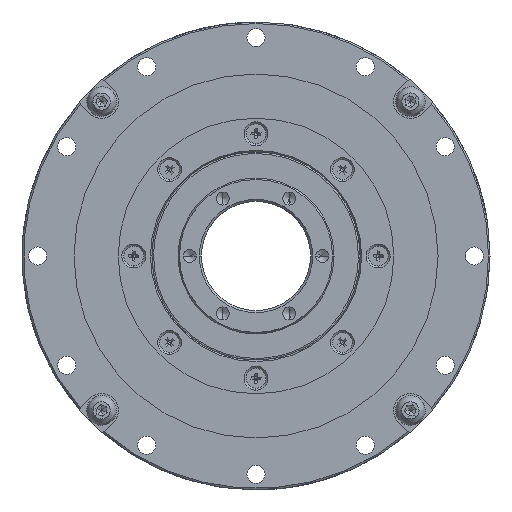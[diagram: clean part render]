
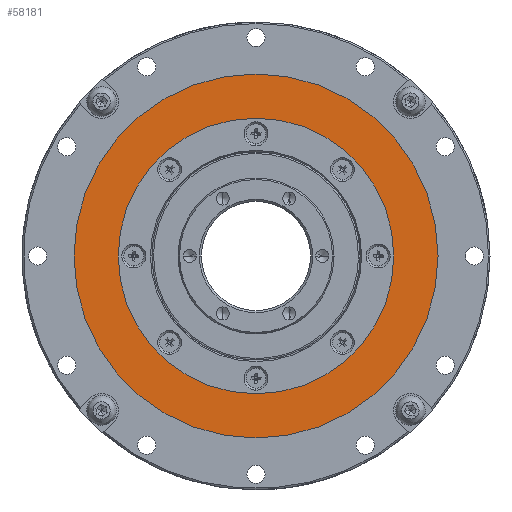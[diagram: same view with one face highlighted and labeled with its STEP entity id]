
A CAD part, left-side view. The second image highlights one B-rep face of the part: STEP entity #58181.
In plain terms, the highlighted planar face has unit normal (-1, 0, 0).
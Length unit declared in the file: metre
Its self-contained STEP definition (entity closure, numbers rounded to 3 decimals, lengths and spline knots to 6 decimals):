
#921 = AXIS2_PLACEMENT_3D ( 'NONE', #72501, #32130, #54411 ) ;
#1647 = DIRECTION ( 'NONE',  ( -1., 0., 0. ) ) ;
#2504 = EDGE_LOOP ( 'NONE', ( #61045, #73732 ) ) ;
#4792 = CARTESIAN_POINT ( 'NONE',  ( 0.002, 0., 0.0265 ) ) ;
#5597 = DIRECTION ( 'NONE',  ( 0., 0., -1. ) ) ;
#6837 = CIRCLE ( 'NONE', #48985, 0.035 ) ;
#7664 = CARTESIAN_POINT ( 'NONE',  ( 0.002, 0., 0. ) ) ;
#7743 = EDGE_CURVE ( 'NONE', #34754, #13283, #69529, .T. ) ;
#8375 = CARTESIAN_POINT ( 'NONE',  ( 0.002, 0., -0.035 ) ) ;
#10057 = EDGE_CURVE ( 'NONE', #13283, #34754, #58888, .T. ) ;
#11230 = CARTESIAN_POINT ( 'NONE',  ( 0.002, 0., 0. ) ) ;
#12117 = DIRECTION ( 'NONE',  ( 1., 0., 0. ) ) ;
#12809 = ORIENTED_EDGE ( 'NONE', *, *, #20571, .F. ) ;
#13028 = ORIENTED_EDGE ( 'NONE', *, *, #18226, .F. ) ;
#13283 = VERTEX_POINT ( 'NONE', #4792 ) ;
#14333 = AXIS2_PLACEMENT_3D ( 'NONE', #7664, #1647, #70651 ) ;
#14772 = FACE_BOUND ( 'NONE', #2504, .T. ) ;
#18226 = EDGE_CURVE ( 'NONE', #61558, #46079, #6837, .T. ) ;
#20571 = EDGE_CURVE ( 'NONE', #46079, #61558, #67284, .T. ) ;
#32130 = DIRECTION ( 'NONE',  ( 1., 0., 0. ) ) ;
#34452 = CARTESIAN_POINT ( 'NONE',  ( 0.002, 0., 0.035 ) ) ;
#34754 = VERTEX_POINT ( 'NONE', #57850 ) ;
#35440 = CARTESIAN_POINT ( 'NONE',  ( 0.002, 0., 0. ) ) ;
#36998 = AXIS2_PLACEMENT_3D ( 'NONE', #11230, #63291, #5597 ) ;
#38438 = EDGE_LOOP ( 'NONE', ( #12809, #13028 ) ) ;
#46079 = VERTEX_POINT ( 'NONE', #8375 ) ;
#48985 = AXIS2_PLACEMENT_3D ( 'NONE', #35440, #50121, #55046 ) ;
#50121 = DIRECTION ( 'NONE',  ( 1., 0., 0. ) ) ;
#51733 = DIRECTION ( 'NONE',  ( 0., 0., -1. ) ) ;
#54411 = DIRECTION ( 'NONE',  ( 0., 0., 1. ) ) ;
#55046 = DIRECTION ( 'NONE',  ( 0., 0., -1. ) ) ;
#55314 = AXIS2_PLACEMENT_3D ( 'NONE', #63793, #12117, #51733 ) ;
#57850 = CARTESIAN_POINT ( 'NONE',  ( 0.002, 0., -0.0265 ) ) ;
#58181 = ADVANCED_FACE ( 'NONE', ( #60064, #14772 ), #59690, .F. ) ;
#58888 = CIRCLE ( 'NONE', #14333, 0.0265 ) ;
#59690 = PLANE ( 'NONE',  #921 ) ;
#60064 = FACE_OUTER_BOUND ( 'NONE', #38438, .T. ) ;
#61045 = ORIENTED_EDGE ( 'NONE', *, *, #7743, .F. ) ;
#61558 = VERTEX_POINT ( 'NONE', #34452 ) ;
#63291 = DIRECTION ( 'NONE',  ( -1., 0., 0. ) ) ;
#63793 = CARTESIAN_POINT ( 'NONE',  ( 0.002, 0., 0. ) ) ;
#67284 = CIRCLE ( 'NONE', #55314, 0.035 ) ;
#69529 = CIRCLE ( 'NONE', #36998, 0.0265 ) ;
#70651 = DIRECTION ( 'NONE',  ( 0., 0., -1. ) ) ;
#72501 = CARTESIAN_POINT ( 'NONE',  ( 0.002, -0.035, 0. ) ) ;
#73732 = ORIENTED_EDGE ( 'NONE', *, *, #10057, .F. ) ;
